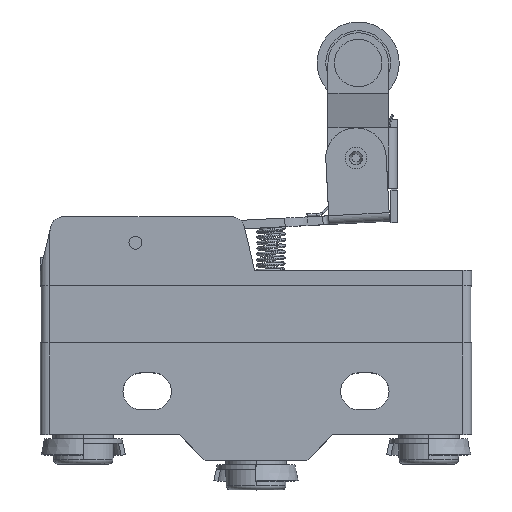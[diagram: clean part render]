
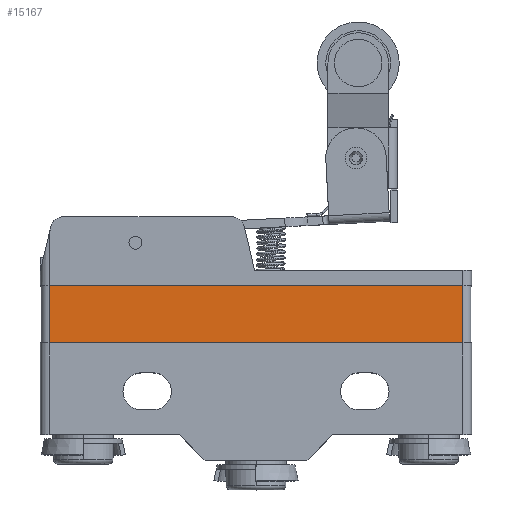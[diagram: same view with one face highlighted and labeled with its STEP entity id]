
A CAD part, top view. The second image highlights one B-rep face of the part: STEP entity #15167.
In plain terms, the highlighted planar face has unit normal (0, 0, 1).
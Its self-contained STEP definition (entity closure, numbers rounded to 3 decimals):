
#83 = FACE_OUTER_BOUND ( 'NONE', #1843, .T. ) ;
#86 = AXIS2_PLACEMENT_3D ( 'NONE', #8798, #8799, #8800 ) ;
#1089 = VECTOR ( 'NONE', #11599, 1000. ) ;
#1090 = VECTOR ( 'NONE', #11596, 1000. ) ;
#1091 = VECTOR ( 'NONE', #11590, 1000. ) ;
#1105 = VECTOR ( 'NONE', #11557, 1000. ) ;
#1843 = EDGE_LOOP ( 'NONE', ( #2915, #2913, #2914, #2912 ) ) ;
#2912 = ORIENTED_EDGE ( 'NONE', *, *, #14076, .T. ) ;
#2913 = ORIENTED_EDGE ( 'NONE', *, *, #14078, .F. ) ;
#2914 = ORIENTED_EDGE ( 'NONE', *, *, #14065, .T. ) ;
#2915 = ORIENTED_EDGE ( 'NONE', *, *, #14079, .F. ) ;
#3376 = VERTEX_POINT ( 'NONE', #4108 ) ;
#3377 = VERTEX_POINT ( 'NONE', #4109 ) ;
#3385 = VERTEX_POINT ( 'NONE', #4117 ) ;
#3386 = VERTEX_POINT ( 'NONE', #4118 ) ;
#4108 = CARTESIAN_POINT ( 'NONE',  ( -23.95, 10.1, 8.9 ) ) ;
#4109 = CARTESIAN_POINT ( 'NONE',  ( 23.95, 10.1, 8.9 ) ) ;
#4117 = CARTESIAN_POINT ( 'NONE',  ( -23.95, 3.5, 8.9 ) ) ;
#4118 = CARTESIAN_POINT ( 'NONE',  ( 23.95, 3.5, 8.9 ) ) ;
#8797 = PLANE ( 'NONE',  #86 ) ;
#8798 = CARTESIAN_POINT ( 'NONE',  ( -23.95, 3.5, 8.9 ) ) ;
#8799 = DIRECTION ( 'NONE',  ( 0., 0., 1. ) ) ;
#8800 = DIRECTION ( 'NONE',  ( 1., 0., 0. ) ) ;
#11555 = LINE ( 'NONE', #11556, #1105 ) ;
#11556 = CARTESIAN_POINT ( 'NONE',  ( -23.95, 3.5, 8.9 ) ) ;
#11557 = DIRECTION ( 'NONE',  ( 1., 0., 0. ) ) ;
#11588 = LINE ( 'NONE', #11589, #1091 ) ;
#11589 = CARTESIAN_POINT ( 'NONE',  ( 23.95, 3.5, 8.9 ) ) ;
#11590 = DIRECTION ( 'NONE',  ( 0., 1., 0. ) ) ;
#11594 = LINE ( 'NONE', #11595, #1090 ) ;
#11595 = CARTESIAN_POINT ( 'NONE',  ( -23.95, 3.5, 8.9 ) ) ;
#11596 = DIRECTION ( 'NONE',  ( 0., 1., 0. ) ) ;
#11597 = LINE ( 'NONE', #11598, #1089 ) ;
#11598 = CARTESIAN_POINT ( 'NONE',  ( -23.95, 10.1, 8.9 ) ) ;
#11599 = DIRECTION ( 'NONE',  ( 1., 0., 0. ) ) ;
#14065 = EDGE_CURVE ( 'NONE', #3385, #3386, #11555, .T. ) ;
#14076 = EDGE_CURVE ( 'NONE', #3386, #3377, #11588, .T. ) ;
#14078 = EDGE_CURVE ( 'NONE', #3385, #3376, #11594, .T. ) ;
#14079 = EDGE_CURVE ( 'NONE', #3376, #3377, #11597, .T. ) ;
#15167 = ADVANCED_FACE ( 'NONE', ( #83 ), #8797, .T. ) ;
